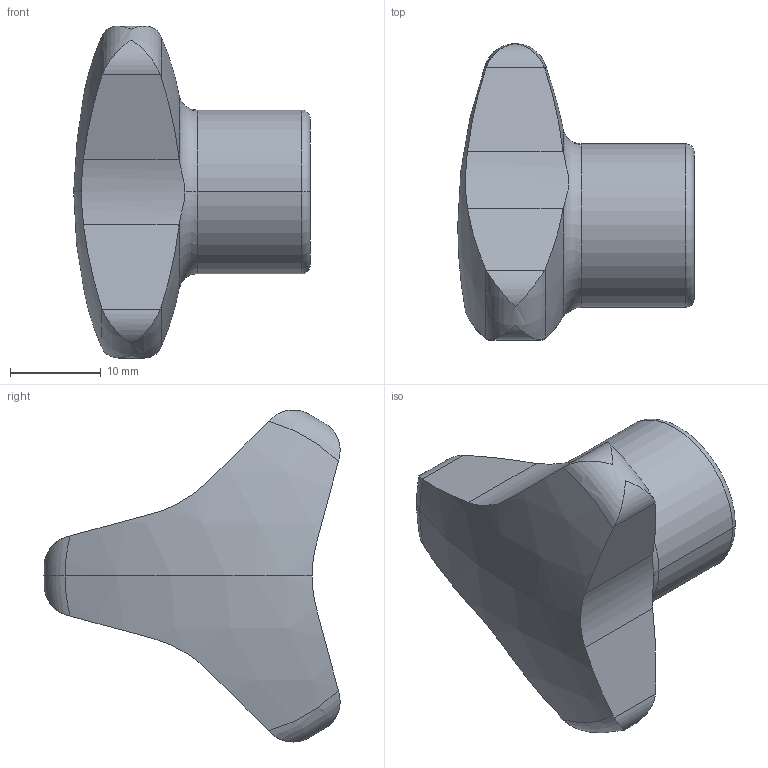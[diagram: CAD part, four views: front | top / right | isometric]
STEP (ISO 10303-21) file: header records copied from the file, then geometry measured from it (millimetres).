
FILE_DESCRIPTION (( 'STEP AP214' ), '1' );
FILE_NAME ('5345-40-B8-C.step', '2019-06-13T08:48:41', ( 'user' ), ( '' ), 'SwSTEP 2.0', 'SolidWorks 2019', '' );
FILE_SCHEMA (( 'AUTOMOTIVE_DESIGN' ));
Length unit declared in the file: millimetre
Products named in the file (1): 5345-40-B8-C
Bounding box: 26 x 32.56 x 36.49 mm (x, y, z)
Volume: 8969.7 mm3; surface area: 3358.6 mm2
Topology: 1 solids, 1 shells, 42 faces, 113 edges, 73 vertices
Faces by surface type: cylinder 16, torus 8, plane 8, sphere 6, cone 4
Entity records: 1575 total; most frequent: CARTESIAN_POINT 529, ORIENTED_EDGE 222, DIRECTION 205, EDGE_CURVE 111, AXIS2_PLACEMENT_3D 91, VERTEX_POINT 73, CIRCLE 48, EDGE_LOOP 44
